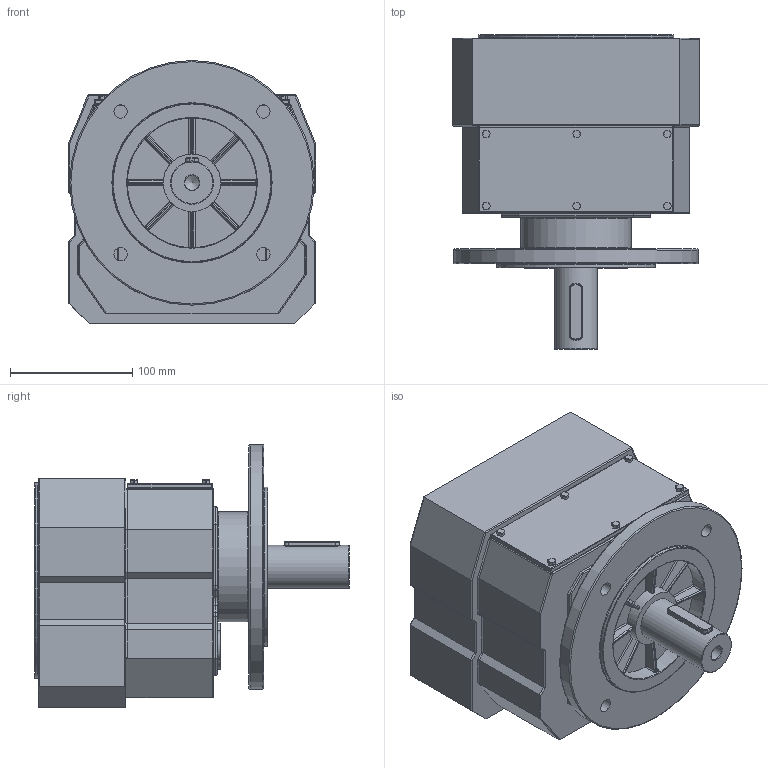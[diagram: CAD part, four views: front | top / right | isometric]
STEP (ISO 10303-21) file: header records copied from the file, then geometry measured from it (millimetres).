
FILE_DESCRIPTION((''),'2;1');
FILE_NAME('D:\PAWEŁ\ZLECENIA\2011 DualSystem\Przekładnie DR\DR50\STEP\DRF50_fi 200.stp','2012-06-11T12:03:10',('admin'),(''),'Autodesk Inventor 2009','Autodesk Inventor 2009','');
FILE_SCHEMA(('AUTOMOTIVE_DESIGN { 1 0 10303 214 1 1 1 1 }'));
Length unit declared in the file: millimetre
Products named in the file (1): DRF50_fi 200
Bounding box: 202 x 257 x 215 mm (x, y, z)
Volume: 5448208.2 mm3; surface area: 285797.5 mm2
Topology: 2 solids, 2 shells, 500 faces, 1197 edges, 676 vertices
Faces by surface type: cylinder 230, plane 164, sphere 44, bspline 43, torus 19
Full cylindrical faces by diameter (mm): 25.333 x1, 34 x1, 35 x1, 38 x1, 47 x1, 90 x1, 106 x1, 120 x1, 130 x1, 160 x1, 200 x1
Entity records: 16698 total; most frequent: CARTESIAN_POINT 5180, DIRECTION 2472, ORIENTED_EDGE 2248, EDGE_CURVE 1124, AXIS2_PLACEMENT_3D 932, VERTEX_POINT 669, VECTOR 608, LINE 608
